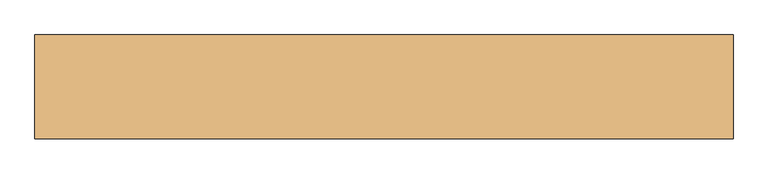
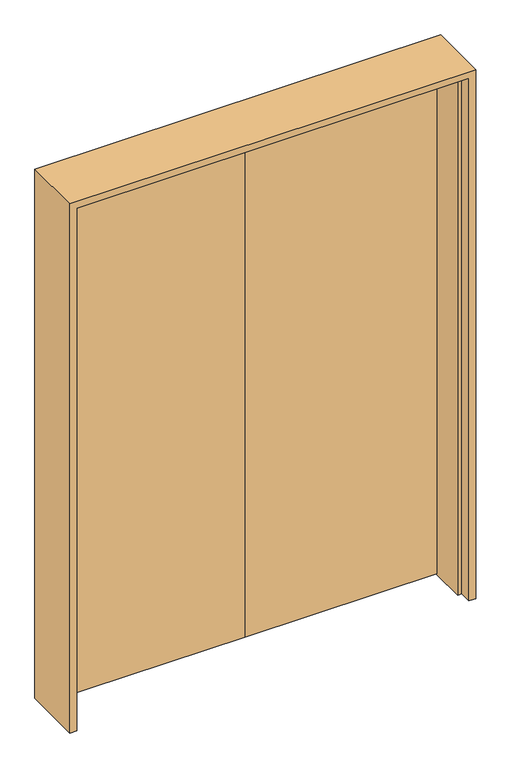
"""IFC4 building model written with IfcOpenShell, lengths in millimetres: door geometry, B1 両開 フラッシュ_A1枠 : SD6-H2000W1400."""

from ifc_helpers import new_model, si_unit, frame, origin, place, context, project, spatial, polyline, outline, extrude, faceted_brep, source, transform, mapped, element, save


def door_5d5221cc(model_context):
    return source(origin(), model_context, "Body", "SolidModel", [
        extrude(outline(polyline([(-715.0, 65.0), (-715.0, 110.0), (0.0, 110.0), (0.0, 65.0), (-715.0, 65.0)])), frame((0.0, 0.0, 5.0), z_axis=(0.0, 0.0, 1.0), x_axis=(1.0, 0.0, 0.0)), (0.0, 0.0, 1.0), 2010.0),
        extrude(outline(polyline([(715.0, 65.0), (0.0, 65.0), (0.0, 110.0), (715.0, 110.0), (715.0, 65.0)])), frame((0.0, 0.0, 5.0), z_axis=(0.0, 0.0, 1.0), x_axis=(1.0, 0.0, 0.0)), (0.0, 0.0, 1.0), 2010.0),
        faceted_brep([(-740.0, 110.0, 0.0), (-715.0, 110.0, 0.0), (-715.0, 65.0, 0.0), (-700.0, 65.0, 0.0), (-700.0, -65.0, 0.0), (-715.0, -65.0, 0.0), (-715.0, -110.0, 0.0), (-740.0, -110.0, 0.0), (-740.0, 110.0, 2040.0), (740.0, 110.0, 2040.0), (740.0, 110.0, 0.0), (715.0, 110.0, 0.0), (715.0, 110.0, 2015.0), (-715.0, 110.0, 2015.0), (-715.0, 65.0, 2015.0), (715.0, 65.0, 2015.0), (715.0, 65.0, 0.0), (700.0, 65.0, 0.0), (700.0, 65.0, 2000.0), (-700.0, 65.0, 2000.0), (-700.0, -65.0, 2000.0), (700.0, -65.0, 2000.0), (700.0, -65.0, 0.0), (715.0, -65.0, 0.0), (715.0, -65.0, 2015.0), (-715.0, -65.0, 2015.0), (-715.0, -110.0, 2015.0), (715.0, -110.0, 2015.0), (715.0, -110.0, 0.0), (740.0, -110.0, 0.0), (740.0, -110.0, 2040.0), (-740.0, -110.0, 2040.0)], [[[0, 1, 2, 3, 4, 5, 6, 7]], [[1, 0, 8, 9, 10, 11, 12, 13]], [[2, 1, 13, 14]], [[3, 2, 14, 15, 16, 17, 18, 19]], [[4, 3, 19, 20]], [[5, 4, 20, 21, 22, 23, 24, 25]], [[6, 5, 25, 26]], [[7, 6, 26, 27, 28, 29, 30, 31]], [[0, 7, 31, 8]], [[14, 13, 12, 15]], [[20, 19, 18, 21]], [[26, 25, 24, 27]], [[8, 31, 30, 9]], [[10, 29, 28, 23, 22, 17, 16, 11]], [[15, 12, 11, 16]], [[21, 18, 17, 22]], [[27, 24, 23, 28]], [[9, 30, 29, 10]]]),
    ])


if __name__ == "__main__":
    model = new_model("IFC4")
    model_context = context("Model", 3, world=origin())
    ifc_project = project(units=[si_unit("LENGTHUNIT", "METRE", prefix="MILLI")], contexts=[model_context])
    site = spatial("IfcSite", under=ifc_project)
    building = spatial("IfcBuilding", under=site)
    placement = place(None, origin())
    door_shape = door_5d5221cc(model_context)
    element("IfcDoor", 1, ObjectType="B1 両開 フラッシュ_A1枠 : SD6-H2000W1400", at=placement, inside=building, context=model_context, shape_type="MappedRepresentation", body=[
        mapped(door_shape, transform((0.0, 0.0, 0.0), x_axis=(1.0, 0.0, 0.0), y_axis=(0.0, 1.0, 0.0), z_axis=(0.0, 0.0, 1.0))),
    ])
    save(model, "model.ifc")
